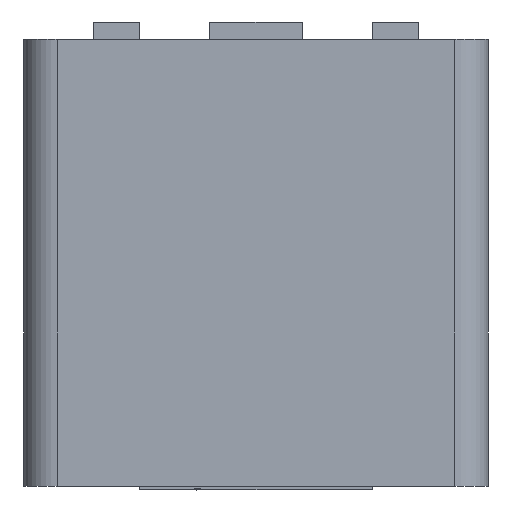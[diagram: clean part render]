
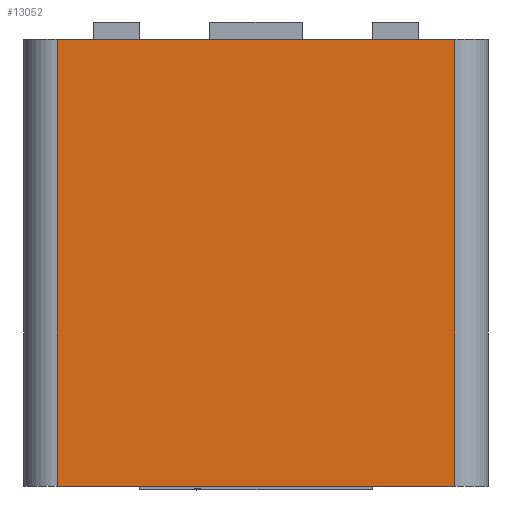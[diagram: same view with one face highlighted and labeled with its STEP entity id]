
A CAD part, left-side view. The second image highlights one B-rep face of the part: STEP entity #13052.
In plain terms, the highlighted planar face has unit normal (-1, 0, 0).
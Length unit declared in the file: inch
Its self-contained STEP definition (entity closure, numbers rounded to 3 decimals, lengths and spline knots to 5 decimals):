
#850 = VECTOR ( 'NONE', #11677, 39.37008 ) ;
#868 = LINE ( 'NONE', #21530, #22222 ) ;
#935 = EDGE_CURVE ( 'NONE', #2099, #25250, #1034, .T. ) ;
#1034 = LINE ( 'NONE', #25537, #22057 ) ;
#2099 = VERTEX_POINT ( 'NONE', #18496 ) ;
#3019 = CARTESIAN_POINT ( 'NONE',  ( -2.25, 0.535, 0.6015 ) ) ;
#6228 = LINE ( 'NONE', #13392, #850 ) ;
#9482 = CARTESIAN_POINT ( 'NONE',  ( -2.25, 0.625, 0.6015 ) ) ;
#9945 = ORIENTED_EDGE ( 'NONE', *, *, #18358, .T. ) ;
#10612 = PLANE ( 'NONE',  #17274 ) ;
#11326 = DIRECTION ( 'NONE',  ( 0., 0., 1. ) ) ;
#11379 = LINE ( 'NONE', #25300, #21269 ) ;
#11677 = DIRECTION ( 'NONE',  ( 0., -1., 0. ) ) ;
#12288 = ORIENTED_EDGE ( 'NONE', *, *, #17650, .F. ) ;
#12367 = VERTEX_POINT ( 'NONE', #24732 ) ;
#13052 = ADVANCED_FACE ( 'NONE', ( #19192 ), #10612, .F. ) ;
#13392 = CARTESIAN_POINT ( 'NONE',  ( -2.25, 0.625, -0.6015 ) ) ;
#13786 = CARTESIAN_POINT ( 'NONE',  ( -2.25, -0.535, 0.6015 ) ) ;
#15733 = EDGE_LOOP ( 'NONE', ( #12288, #9945, #16948, #18397 ) ) ;
#16948 = ORIENTED_EDGE ( 'NONE', *, *, #21052, .T. ) ;
#17274 = AXIS2_PLACEMENT_3D ( 'NONE', #9482, #17663, #23768 ) ;
#17650 = EDGE_CURVE ( 'NONE', #25177, #25250, #11379, .T. ) ;
#17663 = DIRECTION ( 'NONE',  ( 1., 0., 0. ) ) ;
#18358 = EDGE_CURVE ( 'NONE', #25177, #12367, #868, .T. ) ;
#18397 = ORIENTED_EDGE ( 'NONE', *, *, #935, .T. ) ;
#18496 = CARTESIAN_POINT ( 'NONE',  ( -2.25, -0.535, -0.6015 ) ) ;
#19192 = FACE_OUTER_BOUND ( 'NONE', #15733, .T. ) ;
#21052 = EDGE_CURVE ( 'NONE', #12367, #2099, #6228, .T. ) ;
#21183 = DIRECTION ( 'NONE',  ( 0., -1., 0. ) ) ;
#21269 = VECTOR ( 'NONE', #21183, 39.37008 ) ;
#21530 = CARTESIAN_POINT ( 'NONE',  ( -2.25, 0.535, 0.6015 ) ) ;
#22057 = VECTOR ( 'NONE', #11326, 39.37008 ) ;
#22222 = VECTOR ( 'NONE', #25731, 39.37008 ) ;
#23768 = DIRECTION ( 'NONE',  ( 0., 1., 0. ) ) ;
#24732 = CARTESIAN_POINT ( 'NONE',  ( -2.25, 0.535, -0.6015 ) ) ;
#25177 = VERTEX_POINT ( 'NONE', #3019 ) ;
#25250 = VERTEX_POINT ( 'NONE', #13786 ) ;
#25300 = CARTESIAN_POINT ( 'NONE',  ( -2.25, 0.625, 0.6015 ) ) ;
#25537 = CARTESIAN_POINT ( 'NONE',  ( -2.25, -0.535, 0.6015 ) ) ;
#25731 = DIRECTION ( 'NONE',  ( 0., 0., -1. ) ) ;
